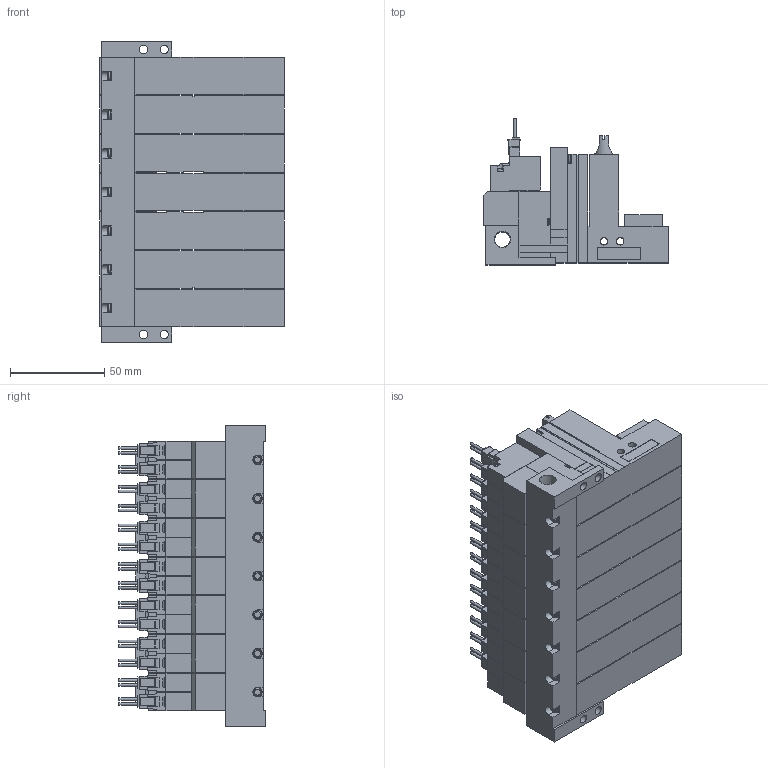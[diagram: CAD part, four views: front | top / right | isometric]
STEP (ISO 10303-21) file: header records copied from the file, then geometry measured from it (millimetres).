
FILE_DESCRIPTION(('STEP AP203'),'1');
FILE_NAME('ZLC5BLR707.stp','2025-02-25T02:08:36',(' '),(' '),'Spatial InterOp 3D',' ',' ');
FILE_SCHEMA(('CONFIG_CONTROL_DESIGN'));
Length unit declared in the file: millimetre
Products named in the file (5): BMC22M※※※※ZLC5BLR707; Solenoid valve B; Pressure sensor ZLC; Unit LC; Base MR70R
Assembly tree (22 placements, depth 2):
  BMC22M※※※※ZLC5BLR707
    Solenoid valve B  x7
    Pressure sensor ZLC  x7
    Unit LC  x7
    Base MR70R
Bounding box: 97.6 x 77.45 x 159 mm (x, y, z)
Volume: 622164 mm3; surface area: 164607 mm2
Topology: 22 solids, 22 shells, 2527 faces, 6870 edges, 4513 vertices
Faces by surface type: plane 2184, cylinder 257, cone 51, torus 35
Full cylindrical faces by diameter (mm): 1.4 x28, 2.5 x7, 3 x28, 3.5 x28, 3.6 x7, 4 x14, 4.134 x7, 4.5 x4, 5.2 x7, 6 x7, 6.6 x7, 8.279 x1
Entity records: 14829 total; most frequent: CARTESIAN_POINT 2906, DIRECTION 2352, ORIENTED_EDGE 2284, EDGE_CURVE 1142, LINE 914, VECTOR 914, VERTEX_POINT 802, AXIS2_PLACEMENT_3D 719
